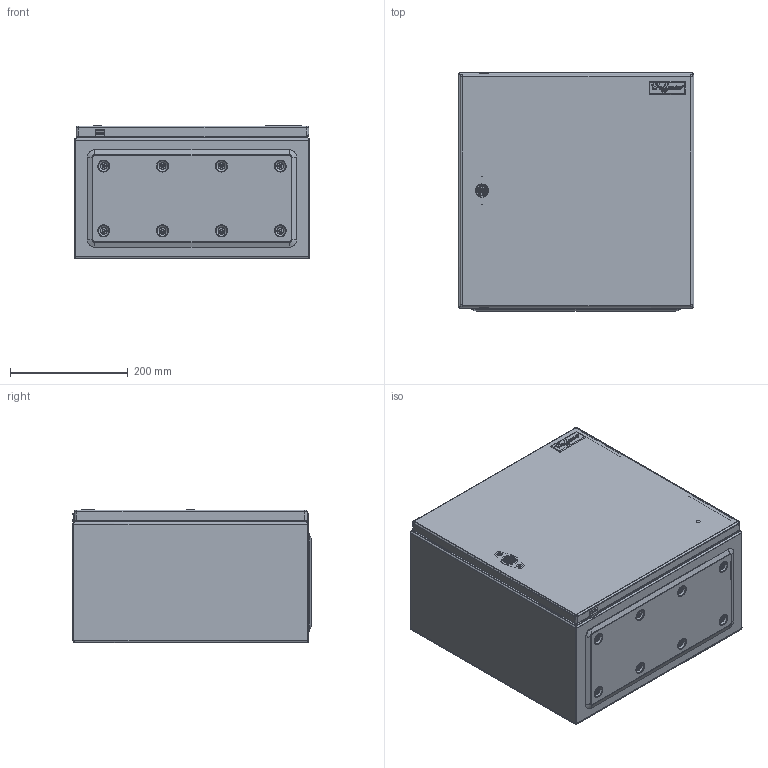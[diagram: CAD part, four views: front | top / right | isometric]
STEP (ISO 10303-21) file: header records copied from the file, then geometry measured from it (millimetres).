
FILE_DESCRIPTION (( 'STEP AP203' ), '1' );
FILE_NAME ('g400400225g.STEP', '2010-01-11T15:58:59', ( 'Hoffman User' ), ( 'Hoffman Enclosures' ), 'SwSTEP 2.0', 'SolidWorks 2009', '' );
FILE_SCHEMA (( 'CONFIG_CONTROL_DESIGN' ));
Products named in the file (26): 87951464; 87954539_18ga; 87951739; 87951470_87951470; 87930895_87930895; 87956552; 87930885_87930885; g400400225g; 87956928_87956928; 87956945_87956945; 23271001_After Weld; 87956959_87956958; 87957011_87957011; 87929949_87929949; 87957023_87957023; 99401225; 87931362_87931362; 64291001; 64101004_Latch Open; 64201001; 64203001; 87951490; 87951487_87930568; 87928600; 99411242_B18.6.7M - M5 x 0.8 x 16 Type I Cross Recessed FHMS --16N; 18288_Assembled
Assembly tree (45 placements, depth 4):
  g400400225g
    99411242_B18.6.7M - M5 x 0.8 x 16 Type I Cross Recessed FHMS --16N  x8
    87951490  x4
      87951739
      87951464
    18288_Assembled
      87930895_87930895
        87930885_87930885
    87956552
    87951487_87930568  x2
    87951470_87951470  x2
    87928600
    87956959_87956958
      87954539_18ga  x2
      64101004_Latch Open
        64291001
        64201001
        64203001
      87957011_87957011
        99401225
        87957023_87957023
        87931362_87931362  x2
        87929949_87929949  x2
    87956928_87956928
      23271001_After Weld  x4
      87956945_87956945
      99401225  x2
Bounding box: 400 x 404.92 x 226.48 mm (x, y, z)
Volume: 1118725.8 mm3; surface area: 1815121.2 mm2
Topology: 43 solids, 43 shells, 2291 faces, 5629 edges, 3494 vertices
Faces by surface type: plane 942, cylinder 728, bspline 308, torus 204, cone 109
Entity records: 54108 total; most frequent: CARTESIAN_POINT 18365, ORIENTED_EDGE 7026, DIRECTION 6333, EDGE_CURVE 3513, AXIS2_PLACEMENT_3D 2284, VERTEX_POINT 2194, LINE 1765, VECTOR 1765
